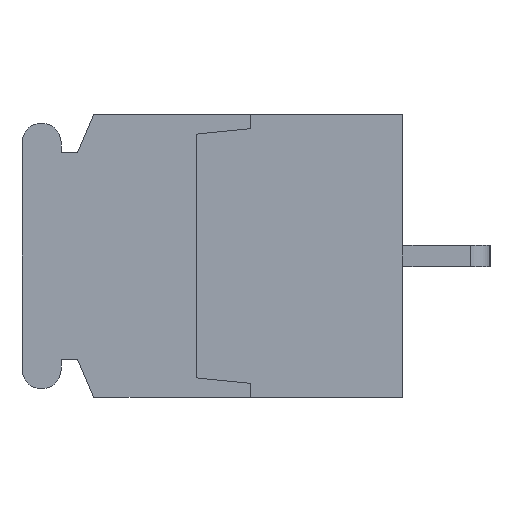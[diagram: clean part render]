
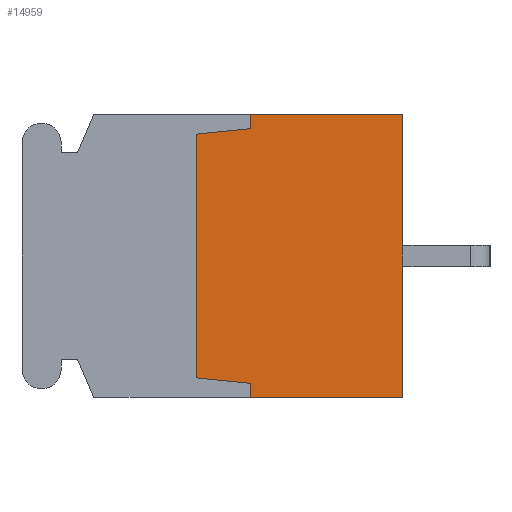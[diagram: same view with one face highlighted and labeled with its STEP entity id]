
A CAD part, left-side view. The second image highlights one B-rep face of the part: STEP entity #14959.
In plain terms, the highlighted planar face has unit normal (-1, 0, 0).
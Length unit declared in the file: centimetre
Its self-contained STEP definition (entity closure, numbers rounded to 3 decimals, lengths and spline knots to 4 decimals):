
#990=VERTEX_POINT('',#19200);
#993=VERTEX_POINT('',#19205);
#1019=VERTEX_POINT('',#19260);
#1065=VERTEX_POINT('',#19373);
#2069=VERTEX_POINT('',#23203);
#2070=VERTEX_POINT('',#23205);
#2071=VERTEX_POINT('',#23207);
#2072=VERTEX_POINT('',#23209);
#2468=VECTOR('',#15973,1.);
#2495=VECTOR('',#16001,1.);
#2551=VECTOR('',#16073,1.);
#3667=VECTOR('',#18412,1.);
#3668=VECTOR('',#18413,1.);
#3669=VECTOR('',#18414,1.);
#3670=VECTOR('',#18415,1.);
#3671=VECTOR('',#18416,1.);
#4130=LINE('',#19206,#2468);
#4157=LINE('',#19259,#2495);
#4213=LINE('',#19374,#2551);
#5329=LINE('',#23202,#3667);
#5330=LINE('',#23204,#3668);
#5331=LINE('',#23206,#3669);
#5332=LINE('',#23208,#3670);
#5333=LINE('',#23210,#3671);
#5836=EDGE_CURVE('',#993,#990,#4130,.T.);
#5863=EDGE_CURVE('',#990,#1019,#4157,.T.);
#5921=EDGE_CURVE('',#1065,#993,#4213,.T.);
#7465=EDGE_CURVE('',#2069,#1065,#5329,.T.);
#7466=EDGE_CURVE('',#2070,#2069,#5330,.T.);
#7467=EDGE_CURVE('',#2071,#2070,#5331,.T.);
#7468=EDGE_CURVE('',#2072,#2071,#5332,.T.);
#7469=EDGE_CURVE('',#1019,#2072,#5333,.T.);
#11437=ORIENTED_EDGE('',*,*,#5836,.F.);
#11438=ORIENTED_EDGE('',*,*,#5921,.F.);
#11439=ORIENTED_EDGE('',*,*,#7465,.F.);
#11440=ORIENTED_EDGE('',*,*,#7466,.F.);
#11441=ORIENTED_EDGE('',*,*,#7467,.F.);
#11442=ORIENTED_EDGE('',*,*,#7468,.F.);
#11443=ORIENTED_EDGE('',*,*,#7469,.F.);
#11444=ORIENTED_EDGE('',*,*,#5863,.F.);
#13170=EDGE_LOOP('',(#11437,#11438,#11439,#11440,#11441,#11442,#11443,#11444));
#14106=FACE_BOUND('',#13170,.T.);
#14959=ADVANCED_FACE('',(#14106),#15641,.F.);
#15641=PLANE('',#25605);
#15973=DIRECTION('',(0.,0.,-1.));
#16001=DIRECTION('',(0.,1.,0.));
#16073=DIRECTION('',(0.,-1.,0.));
#18411=DIRECTION('',(1.,0.,0.));
#18412=DIRECTION('',(0.,0.,1.));
#18413=DIRECTION('',(0.,-0.995,0.1));
#18414=DIRECTION('',(0.,0.,1.));
#18415=DIRECTION('',(0.,0.995,0.1));
#18416=DIRECTION('',(0.,0.,1.));
#19200=CARTESIAN_POINT('',(-1.07,0.,-0.65));
#19205=CARTESIAN_POINT('',(-1.07,0.,0.65));
#19206=CARTESIAN_POINT('',(-1.07,0.,0.65));
#19259=CARTESIAN_POINT('',(-1.07,0.,-0.65));
#19260=CARTESIAN_POINT('',(-1.07,0.7,-0.65));
#19373=CARTESIAN_POINT('',(-1.07,0.7,0.65));
#19374=CARTESIAN_POINT('',(-1.07,0.7,0.65));
#23201=CARTESIAN_POINT('',(-1.07,0.4626,0.));
#23202=CARTESIAN_POINT('',(-1.07,0.7,0.585));
#23203=CARTESIAN_POINT('',(-1.07,0.7,0.585));
#23204=CARTESIAN_POINT('',(-1.07,0.95,0.56));
#23205=CARTESIAN_POINT('',(-1.07,0.95,0.56));
#23206=CARTESIAN_POINT('',(-1.07,0.95,-0.56));
#23207=CARTESIAN_POINT('',(-1.07,0.95,-0.56));
#23208=CARTESIAN_POINT('',(-1.07,0.7,-0.585));
#23209=CARTESIAN_POINT('',(-1.07,0.7,-0.585));
#23210=CARTESIAN_POINT('',(-1.07,0.7,-0.65));
#25605=AXIS2_PLACEMENT_3D('',#23201,#18411,$);
